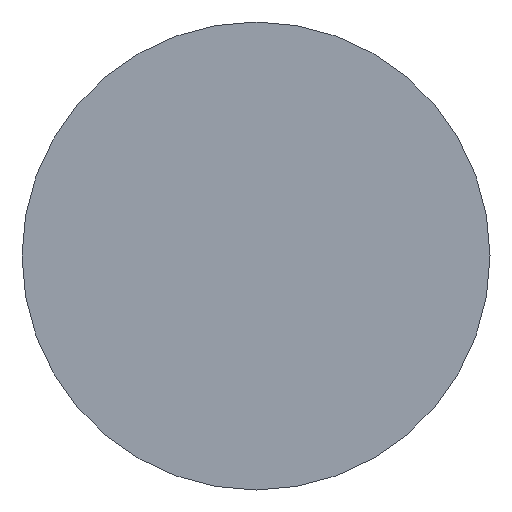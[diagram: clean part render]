
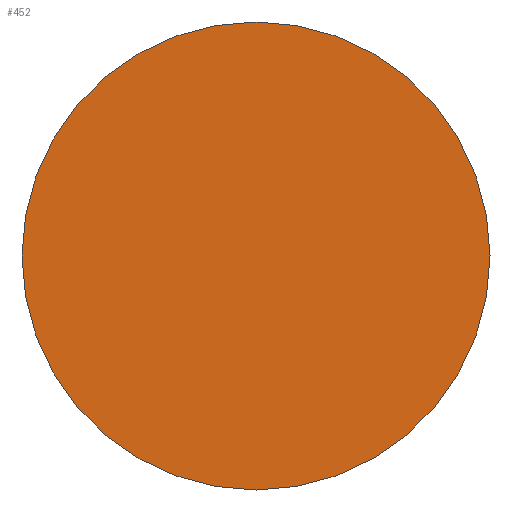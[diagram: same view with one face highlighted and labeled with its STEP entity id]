
A CAD part, left-side view. The second image highlights one B-rep face of the part: STEP entity #452.
In plain terms, the highlighted planar face has unit normal (-1, 0, 0).
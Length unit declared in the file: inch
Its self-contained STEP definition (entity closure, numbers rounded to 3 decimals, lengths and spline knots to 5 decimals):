
#8 = DIRECTION ( 'NONE',  ( 0., 0., 1. ) ) ;
#10 = VERTEX_POINT ( 'NONE', #647 ) ;
#17 = ORIENTED_EDGE ( 'NONE', *, *, #625, .T. ) ;
#40 = CIRCLE ( 'NONE', #55, 0.09375 ) ;
#42 = DIRECTION ( 'NONE',  ( 0., 0., 1. ) ) ;
#51 = DIRECTION ( 'NONE',  ( 1., 0., 0. ) ) ;
#55 = AXIS2_PLACEMENT_3D ( 'NONE', #301, #523, #8 ) ;
#144 = CARTESIAN_POINT ( 'NONE',  ( -3., 0.09375, 0. ) ) ;
#155 = AXIS2_PLACEMENT_3D ( 'NONE', #232, #448, #42 ) ;
#162 = EDGE_CURVE ( 'NONE', #10, #489, #426, .T. ) ;
#232 = CARTESIAN_POINT ( 'NONE',  ( -3., 0., 0. ) ) ;
#250 = DIRECTION ( 'NONE',  ( 0., 0., -1. ) ) ;
#300 = FACE_OUTER_BOUND ( 'NONE', #635, .T. ) ;
#301 = CARTESIAN_POINT ( 'NONE',  ( -3., 0., 0. ) ) ;
#321 = AXIS2_PLACEMENT_3D ( 'NONE', #144, #51, #250 ) ;
#410 = ORIENTED_EDGE ( 'NONE', *, *, #162, .T. ) ;
#426 = CIRCLE ( 'NONE', #155, 0.09375 ) ;
#448 = DIRECTION ( 'NONE',  ( -1., 0., 0. ) ) ;
#452 = ADVANCED_FACE ( 'NONE', ( #300 ), #514, .F. ) ;
#489 = VERTEX_POINT ( 'NONE', #571 ) ;
#514 = PLANE ( 'NONE',  #321 ) ;
#523 = DIRECTION ( 'NONE',  ( -1., 0., 0. ) ) ;
#571 = CARTESIAN_POINT ( 'NONE',  ( -3., 0., 0.09375 ) ) ;
#625 = EDGE_CURVE ( 'NONE', #489, #10, #40, .T. ) ;
#635 = EDGE_LOOP ( 'NONE', ( #17, #410 ) ) ;
#647 = CARTESIAN_POINT ( 'NONE',  ( -3., 0., -0.09375 ) ) ;
